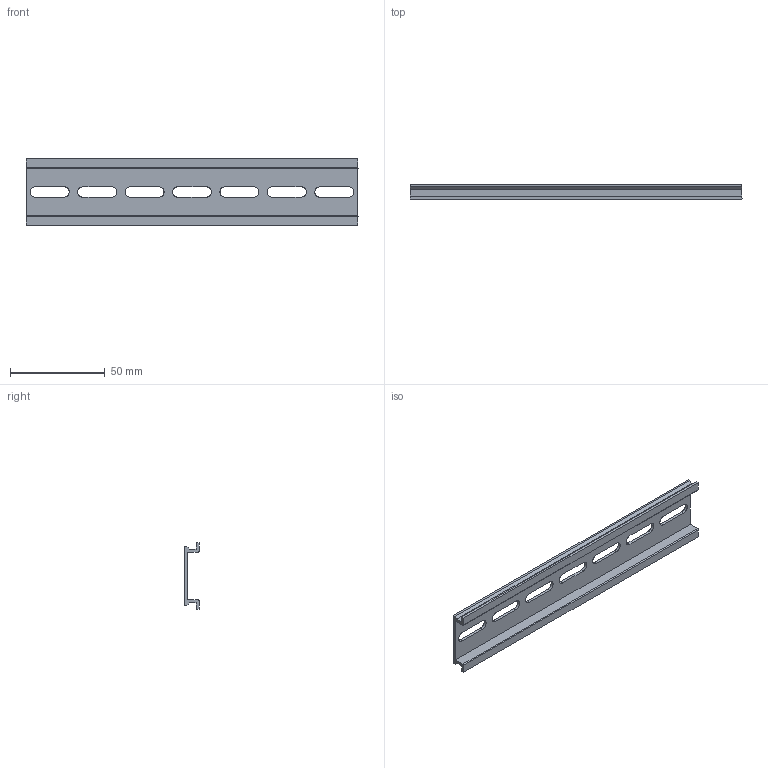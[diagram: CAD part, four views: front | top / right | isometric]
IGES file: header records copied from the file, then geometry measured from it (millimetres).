
Start section: ------------------------------------------------------------------------
Global section: file name: D:\ICADMX\tmp\trans3d_spg\CVICAD02.21224.DIN-RAIL175_7766.igs; native system: spGate; preprocessor: ver12.6.6; author: Unknown; organization: Unknown; date: 200901.142017; units: millimetre
Bounding box: 175 x 7.5 x 35 mm (x, y, z)
Volume: 12354.7 mm3; surface area: 16609.7 mm2
Topology: 1 solids, 1 shells, 48 faces, 138 edges, 92 vertices
Faces by surface type: bspline 48
